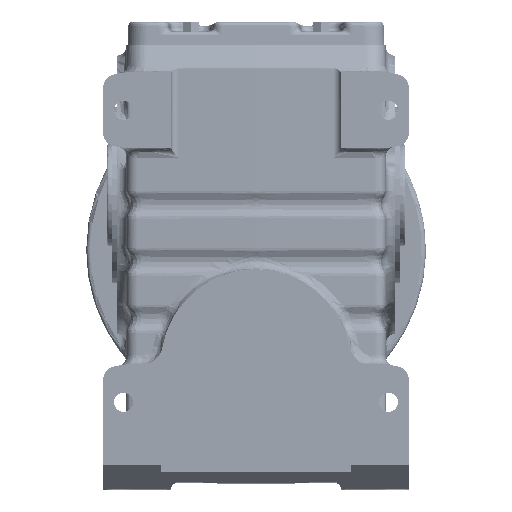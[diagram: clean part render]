
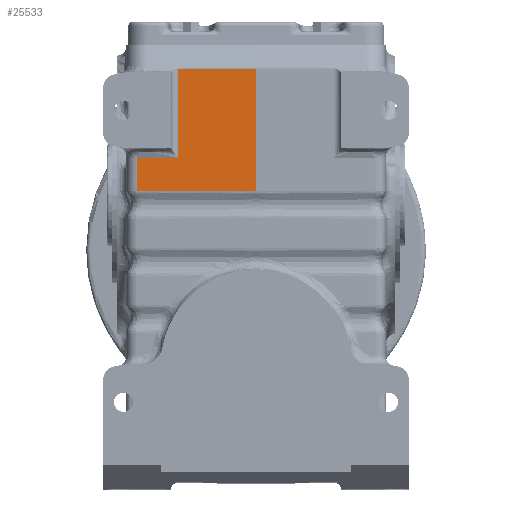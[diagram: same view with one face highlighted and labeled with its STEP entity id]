
A CAD part, top view. The second image highlights one B-rep face of the part: STEP entity #25533.
In plain terms, the highlighted planar face has unit normal (-0.018, 0, 1) as drawn and (-1, 0, -0.017) by its records, which use the part's own axes.
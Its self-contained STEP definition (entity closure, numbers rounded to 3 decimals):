
#4535 = DIRECTION ( 'NONE',  ( 0., -1., 0. ) ) ;
#20594 = CARTESIAN_POINT ( 'NONE',  ( -160.137, 27.095, -87.64 ) ) ;
#24767 = CARTESIAN_POINT ( 'NONE',  ( -160.137, 2.835, -87.64 ) ) ;
#25533 = ADVANCED_FACE ( 'NONE', ( #296277 ), #261448, .T. ) ;
#28335 = EDGE_LOOP ( 'NONE', ( #324809, #113542, #188473, #138852, #181754, #141746 ) ) ;
#55931 = VECTOR ( 'NONE', #430063, 1000. ) ;
#59242 = CARTESIAN_POINT ( 'NONE',  ( -160.137, 27.095, -87.64 ) ) ;
#62631 = EDGE_CURVE ( 'NONE', #163189, #427068, #264570, .T. ) ;
#102318 = AXIS2_PLACEMENT_3D ( 'NONE', #392072, #198225, #429107 ) ;
#113542 = ORIENTED_EDGE ( 'NONE', *, *, #62631, .T. ) ;
#130996 = CARTESIAN_POINT ( 'NONE',  ( -160.314, 27.124, -77.485 ) ) ;
#138601 = EDGE_CURVE ( 'NONE', #427068, #228945, #325041, .T. ) ;
#138852 = ORIENTED_EDGE ( 'NONE', *, *, #162223, .T. ) ;
#141746 = ORIENTED_EDGE ( 'NONE', *, *, #362602, .T. ) ;
#142528 = B_SPLINE_CURVE_WITH_KNOTS ( 'NONE', 3,
 ( #331252, #165787, #130996, #59242 ),
 .UNSPECIFIED., .F., .F.,
 ( 4, 4 ),
 ( 0., 1. ),
 .UNSPECIFIED. ) ;
#153464 = EDGE_CURVE ( 'NONE', #263630, #410764, #275545, .T. ) ;
#161390 = CARTESIAN_POINT ( 'NONE',  ( -161.667, -211., 0. ) ) ;
#162223 = EDGE_CURVE ( 'NONE', #228945, #410764, #368093, .T. ) ;
#163189 = VERTEX_POINT ( 'NONE', #20594 ) ;
#165787 = CARTESIAN_POINT ( 'NONE',  ( -160.49, 27.16, -67.409 ) ) ;
#175441 = CARTESIAN_POINT ( 'NONE',  ( -160.665, 27.203, -57.413 ) ) ;
#181754 = ORIENTED_EDGE ( 'NONE', *, *, #153464, .F. ) ;
#188473 = ORIENTED_EDGE ( 'NONE', *, *, #138601, .T. ) ;
#198225 = DIRECTION ( 'NONE',  ( -1., 0., -0.017 ) ) ;
#204718 = CARTESIAN_POINT ( 'NONE',  ( -161.667, 2.389, 0. ) ) ;
#228945 = VERTEX_POINT ( 'NONE', #393131 ) ;
#240298 = VECTOR ( 'NONE', #259373, 1000. ) ;
#242893 = CARTESIAN_POINT ( 'NONE',  ( -159.975, 92.176, -96.941 ) ) ;
#256948 = CARTESIAN_POINT ( 'NONE',  ( -160.137, 2.835, -87.64 ) ) ;
#259373 = DIRECTION ( 'NONE',  ( 0., 1., 0. ) ) ;
#261448 = PLANE ( 'NONE',  #102318 ) ;
#263630 = VERTEX_POINT ( 'NONE', #358114 ) ;
#264570 = LINE ( 'NONE', #299377, #55931 ) ;
#271072 = EDGE_CURVE ( 'NONE', #354764, #163189, #142528, .T. ) ;
#275545 = LINE ( 'NONE', #242893, #429253 ) ;
#278397 = CARTESIAN_POINT ( 'NONE',  ( -161.667, 92.637, 0. ) ) ;
#292517 = CARTESIAN_POINT ( 'NONE',  ( -161.168, 2.537, -28.569 ) ) ;
#296277 = FACE_OUTER_BOUND ( 'NONE', #28335, .T. ) ;
#299377 = CARTESIAN_POINT ( 'NONE',  ( -160.137, -211., -87.64 ) ) ;
#324809 = ORIENTED_EDGE ( 'NONE', *, *, #271072, .T. ) ;
#325041 = B_SPLINE_CURVE_WITH_KNOTS ( 'NONE', 3,
 ( #24767, #427477, #292517, #204718 ),
 .UNSPECIFIED., .F., .F.,
 ( 4, 4 ),
 ( 0., 1. ),
 .UNSPECIFIED. ) ;
#331252 = CARTESIAN_POINT ( 'NONE',  ( -160.665, 27.203, -57.413 ) ) ;
#354764 = VERTEX_POINT ( 'NONE', #175441 ) ;
#358114 = CARTESIAN_POINT ( 'NONE',  ( -160.665, 92.364, -57.413 ) ) ;
#362602 = EDGE_CURVE ( 'NONE', #263630, #354764, #374519, .T. ) ;
#365929 = CARTESIAN_POINT ( 'NONE',  ( -160.665, -211., -57.413 ) ) ;
#368093 = LINE ( 'NONE', #161390, #240298 ) ;
#374519 = LINE ( 'NONE', #365929, #420794 ) ;
#375671 = DIRECTION ( 'NONE',  ( -0.017, 0.005, 1. ) ) ;
#392072 = CARTESIAN_POINT ( 'NONE',  ( -160., -211., -95.5 ) ) ;
#393131 = CARTESIAN_POINT ( 'NONE',  ( -161.667, 2.389, 0. ) ) ;
#410764 = VERTEX_POINT ( 'NONE', #278397 ) ;
#420794 = VECTOR ( 'NONE', #4535, 1000. ) ;
#427068 = VERTEX_POINT ( 'NONE', #256948 ) ;
#427477 = CARTESIAN_POINT ( 'NONE',  ( -160.658, 2.686, -57.782 ) ) ;
#429107 = DIRECTION ( 'NONE',  ( -0.017, 0., 1. ) ) ;
#429253 = VECTOR ( 'NONE', #375671, 1000. ) ;
#430063 = DIRECTION ( 'NONE',  ( 0., -1., 0. ) ) ;
